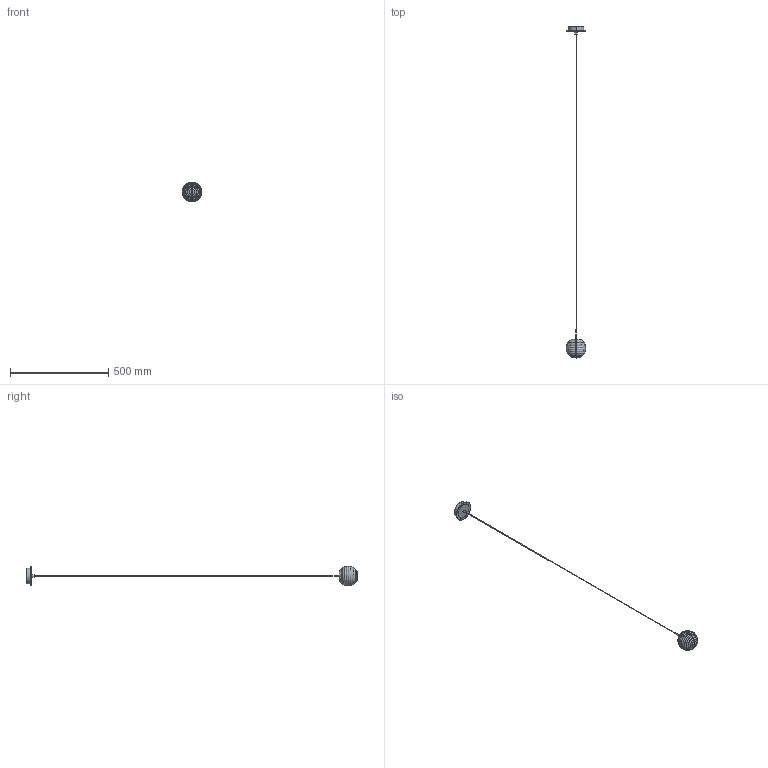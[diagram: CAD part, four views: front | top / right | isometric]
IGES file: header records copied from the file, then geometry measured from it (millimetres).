
Start section: SolidWorks IGES file using analytic representation for surfaces
Global section: file name: C:\Users\Agus\Desktop\NOVEDADES_2023_1\DOUL_1310\C1310\3D\DOUL_C1310.IGS; native system: SolidWorks 2018; preprocessor: SolidWorks 2018; author: Agus; date: 230214.123530; units: millimetre
Bounding box: 100 x 1686 x 100 mm (x, y, z)
Surface area: 99600.2 mm2 (no closed solid volume)
Topology: 0 solids, 0 shells, 61 faces, 996 edges, 995 vertices
Faces by surface type: bspline 41, revolution 20
